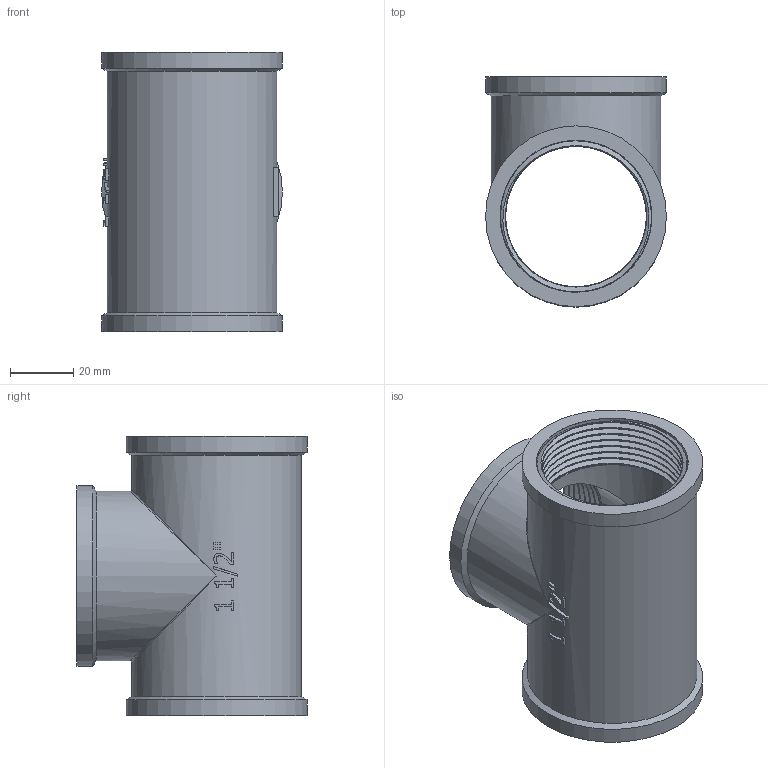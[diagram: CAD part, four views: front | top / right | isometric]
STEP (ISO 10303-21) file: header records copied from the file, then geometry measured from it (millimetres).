
FILE_DESCRIPTION(/* description */ (''),/* implementation_level */ '2;1');
FILE_NAME(/* name */ 'C:\Users\Doom\Desktop\Фадотех\Резьба\T08 18.03.2020\T08 18.03.2020.stp',/* time_stamp */ '2022-01-20T00:14:52+02:00',/* author */ ('Doom'),/* organization */ (''),/* preprocessor_version */ 'ST-DEVELOPER v18',/* originating_system */ 'Autodesk Inventor 2020',/* authorisation */ '');
FILE_SCHEMA (('AUTOMOTIVE_DESIGN { 1 0 10303 214 3 1 1 }'));
Length unit declared in the file: millimetre
Products named in the file (1): T08 18.03.2020
Bounding box: 57 x 72.5 x 88 mm (x, y, z)
Volume: 81127.1 mm3; surface area: 59257.1 mm2
Topology: 4 solids, 4 shells, 160 faces, 446 edges, 296 vertices
Faces by surface type: plane 71, cylinder 49, bspline 37, cone 3
Full cylindrical faces by diameter (mm): 44.376 x24, 45.1 x2, 47.8 x6, 53.5 x2, 57 x3
Entity records: 18557 total; most frequent: CARTESIAN_POINT 14731, ORIENTED_EDGE 864, DIRECTION 649, EDGE_CURVE 432, VERTEX_POINT 290, AXIS2_PLACEMENT_3D 230, LINE 189, VECTOR 189
